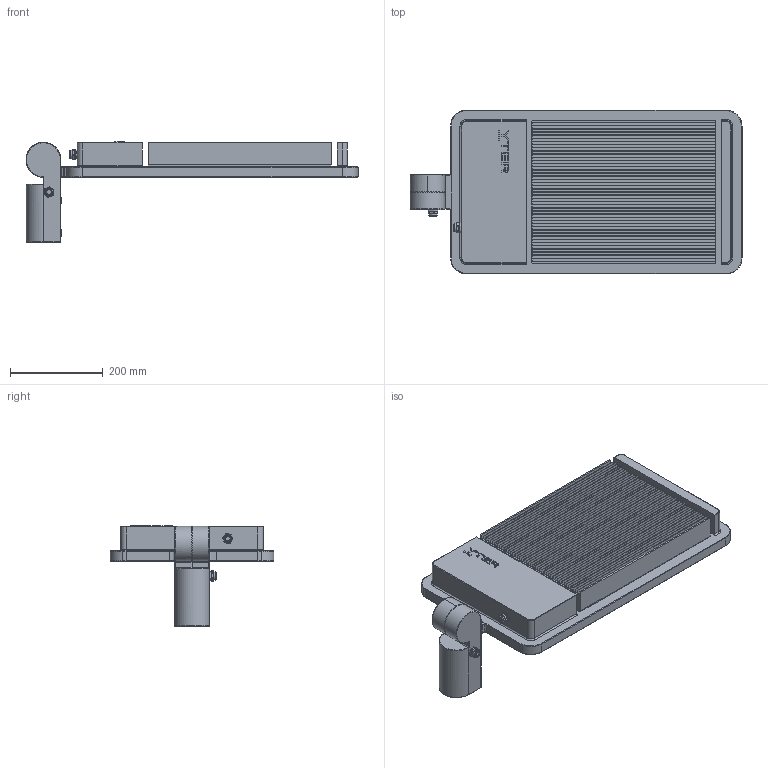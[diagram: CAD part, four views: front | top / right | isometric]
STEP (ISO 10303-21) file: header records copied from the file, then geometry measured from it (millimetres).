
FILE_DESCRIPTION(/* description */ (''),/* implementation_level */ '2;1');
FILE_NAME(/* name */ 'VERSIO~1',/* time_stamp */ '2016-09-12T19:15:34+02:00',/* author */ (''),/* organization */ (''),/* preprocessor_version */ 'ST-DEVELOPER v15',/* originating_system */ '',/* authorisation */ '');
FILE_SCHEMA (('AUTOMOTIVE_DESIGN'));
Length unit declared in the file: millimetre
Products named in the file (1): Document
Bounding box: 714.5 x 352 x 216.51 mm (x, y, z)
Volume: 6359843.9 mm3; surface area: 1519818.2 mm2
Topology: 21 solids, 41 shells, 649 faces, 1948 edges, 1347 vertices
Faces by surface type: plane 441, bspline 208
Entity records: 23585 total; most frequent: CARTESIAN_POINT 11535, ORIENTED_EDGE 3516, EDGE_CURVE 1944, B_SPLINE_CURVE_WITH_KNOTS 1616, VERTEX_POINT 1347, EDGE_LOOP 689, ADVANCED_FACE 649, FACE_OUTER_BOUND 649
